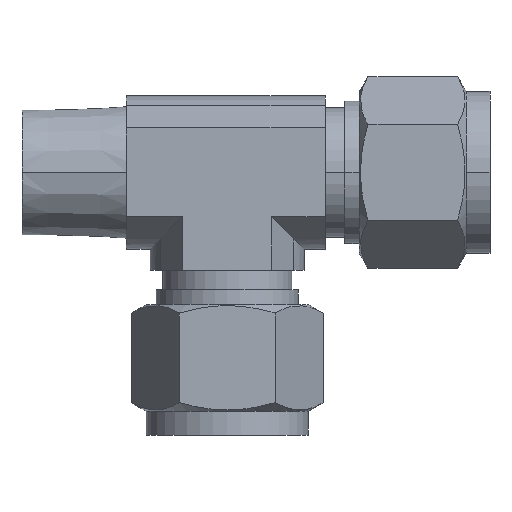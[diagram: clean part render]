
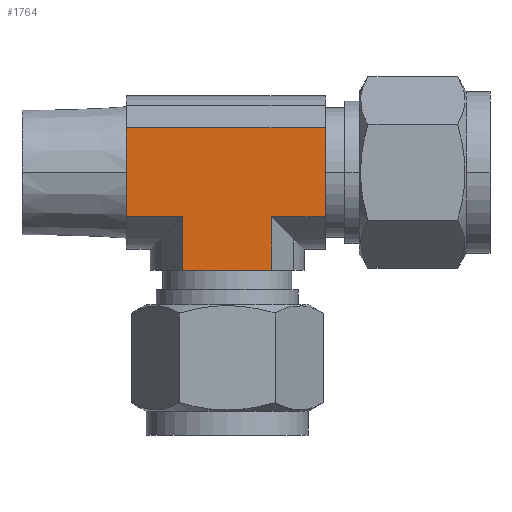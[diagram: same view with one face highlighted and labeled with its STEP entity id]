
A CAD part, top view. The second image highlights one B-rep face of the part: STEP entity #1764.
In plain terms, the highlighted planar face has unit normal (0, 0, 1).
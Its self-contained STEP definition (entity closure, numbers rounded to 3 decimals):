
#1 = CARTESIAN_POINT ( 'NONE',  ( -5.947, -5.947, 10.3 ) ) ;
#12 = DIRECTION ( 'NONE',  ( -1., 0., 0. ) ) ;
#13 = VECTOR ( 'NONE', #12, 1000. ) ;
#14 = CARTESIAN_POINT ( 'NONE',  ( 13.12, -5.947, 10.3 ) ) ;
#15 = LINE ( 'NONE', #14, #13 ) ;
#110 = DIRECTION ( 'NONE',  ( -1., 0., 0. ) ) ;
#111 = VECTOR ( 'NONE', #110, 1000. ) ;
#112 = CARTESIAN_POINT ( 'NONE',  ( 13.12, -5.947, 10.3 ) ) ;
#113 = LINE ( 'NONE', #112, #111 ) ;
#157 = CARTESIAN_POINT ( 'NONE',  ( 5.947, -5.947, 10.3 ) ) ;
#266 = VECTOR ( 'NONE', #400, 1000. ) ;
#267 = CARTESIAN_POINT ( 'NONE',  ( 13.12, 5.947, 10.3 ) ) ;
#268 = LINE ( 'NONE', #267, #266 ) ;
#280 = CARTESIAN_POINT ( 'NONE',  ( -13.5, -5.947, 10.3 ) ) ;
#365 = DIRECTION ( 'NONE',  ( 0., 1., 0. ) ) ;
#366 = VECTOR ( 'NONE', #365, 1000. ) ;
#367 = CARTESIAN_POINT ( 'NONE',  ( -5.947, -13.12, 10.3 ) ) ;
#368 = LINE ( 'NONE', #367, #366 ) ;
#373 = CARTESIAN_POINT ( 'NONE',  ( -13.5, 5.947, 10.3 ) ) ;
#374 = DIRECTION ( 'NONE',  ( 0., 1., 0. ) ) ;
#375 = VECTOR ( 'NONE', #374, 1000. ) ;
#376 = CARTESIAN_POINT ( 'NONE',  ( -13.5, -5.947, 10.3 ) ) ;
#377 = LINE ( 'NONE', #376, #375 ) ;
#393 = DIRECTION ( 'NONE',  ( 0., 1., 0. ) ) ;
#394 = DIRECTION ( 'NONE',  ( 0., 0., -1. ) ) ;
#395 = CARTESIAN_POINT ( 'NONE',  ( 13.12, 5.947, 10.3 ) ) ;
#396 = AXIS2_PLACEMENT_3D ( 'NONE', #395, #394, #393 ) ;
#397 = PLANE ( 'NONE',  #396 ) ;
#399 = FACE_OUTER_BOUND ( 'NONE', #1765, .T. ) ;
#400 = DIRECTION ( 'NONE',  ( -1., 0., 0. ) ) ;
#489 = CARTESIAN_POINT ( 'NONE',  ( 5.947, -13.12, 10.3 ) ) ;
#564 = DIRECTION ( 'NONE',  ( -1., 0., 0. ) ) ;
#565 = VECTOR ( 'NONE', #564, 1000. ) ;
#566 = CARTESIAN_POINT ( 'NONE',  ( 5.947, -13.12, 10.3 ) ) ;
#625 = LINE ( 'NONE', #566, #565 ) ;
#692 = CARTESIAN_POINT ( 'NONE',  ( 13.12, -5.947, 10.3 ) ) ;
#693 = DIRECTION ( 'NONE',  ( 0., -1., 0. ) ) ;
#694 = VECTOR ( 'NONE', #693, 1000. ) ;
#695 = CARTESIAN_POINT ( 'NONE',  ( 13.12, 5.947, 10.3 ) ) ;
#696 = LINE ( 'NONE', #695, #694 ) ;
#697 = CARTESIAN_POINT ( 'NONE',  ( 13.12, 5.947, 10.3 ) ) ;
#867 = CARTESIAN_POINT ( 'NONE',  ( -5.947, -13.12, 10.3 ) ) ;
#928 = DIRECTION ( 'NONE',  ( 0., 1., 0. ) ) ;
#929 = VECTOR ( 'NONE', #928, 1000. ) ;
#930 = CARTESIAN_POINT ( 'NONE',  ( 5.947, -13.12, 10.3 ) ) ;
#936 = LINE ( 'NONE', #930, #929 ) ;
#1660 = EDGE_CURVE ( 'NONE', #1677, #1754, #113, .T. ) ;
#1673 = EDGE_CURVE ( 'NONE', #2153, #1679, #15, .T. ) ;
#1677 = VERTEX_POINT ( 'NONE', #1 ) ;
#1679 = VERTEX_POINT ( 'NONE', #157 ) ;
#1718 = EDGE_CURVE ( 'NONE', #1754, #1719, #377, .T. ) ;
#1719 = VERTEX_POINT ( 'NONE', #373 ) ;
#1723 = ORIENTED_EDGE ( 'NONE', *, *, #1660, .F. ) ;
#1724 = ORIENTED_EDGE ( 'NONE', *, *, #1725, .F. ) ;
#1725 = EDGE_CURVE ( 'NONE', #1958, #1677, #368, .T. ) ;
#1754 = VERTEX_POINT ( 'NONE', #280 ) ;
#1762 = EDGE_CURVE ( 'NONE', #2150, #1719, #268, .T. ) ;
#1764 = ADVANCED_FACE ( 'NONE', ( #399 ), #397, .F. ) ;
#1765 = EDGE_LOOP ( 'NONE', ( #1723, #1724, #2234, #2227, #2226, #2224, #2235, #2236 ) ) ;
#1905 = VERTEX_POINT ( 'NONE', #489 ) ;
#1957 = EDGE_CURVE ( 'NONE', #1905, #1958, #625, .T. ) ;
#1958 = VERTEX_POINT ( 'NONE', #867 ) ;
#2150 = VERTEX_POINT ( 'NONE', #697 ) ;
#2152 = EDGE_CURVE ( 'NONE', #2150, #2153, #696, .T. ) ;
#2153 = VERTEX_POINT ( 'NONE', #692 ) ;
#2224 = ORIENTED_EDGE ( 'NONE', *, *, #2152, .F. ) ;
#2225 = EDGE_CURVE ( 'NONE', #1905, #1679, #936, .T. ) ;
#2226 = ORIENTED_EDGE ( 'NONE', *, *, #1673, .F. ) ;
#2227 = ORIENTED_EDGE ( 'NONE', *, *, #2225, .T. ) ;
#2234 = ORIENTED_EDGE ( 'NONE', *, *, #1957, .F. ) ;
#2235 = ORIENTED_EDGE ( 'NONE', *, *, #1762, .T. ) ;
#2236 = ORIENTED_EDGE ( 'NONE', *, *, #1718, .F. ) ;
